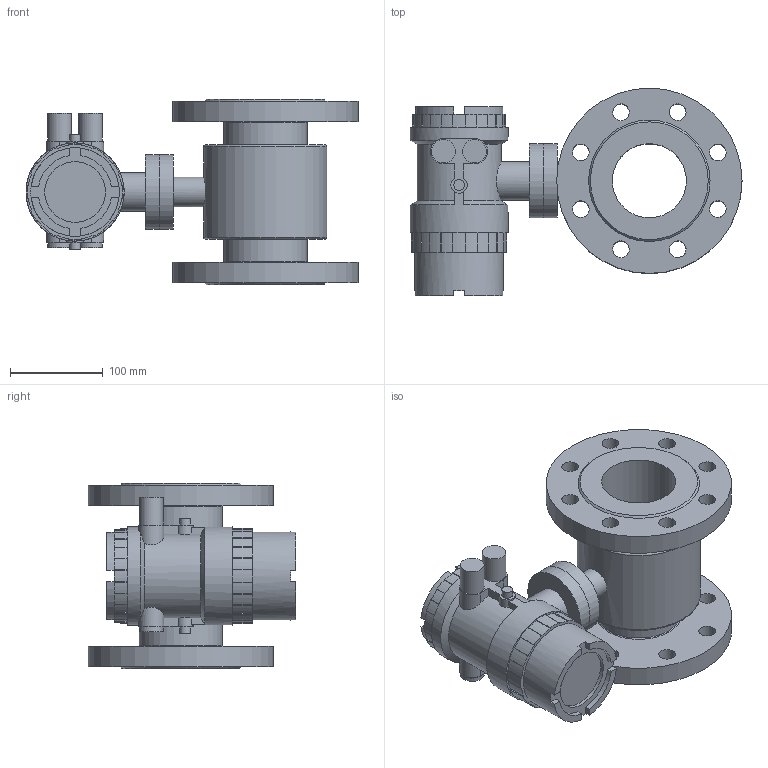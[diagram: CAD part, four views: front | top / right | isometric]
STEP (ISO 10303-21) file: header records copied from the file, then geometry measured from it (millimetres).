
FILE_DESCRIPTION( (''), '2;1');
FILE_NAME( 'QMKC_DN80.step', '2025-11-18T13:45:46+08:00', (''), (''), '', '', '');
FILE_SCHEMA (('AUTOMOTIVE_DESIGN { 1 0 10303 214 3 1 1 1 }'));
Length unit declared in the file: millimetre
Products named in the file (1): QMKC DN80
Bounding box: 358.25 x 224 x 200 mm (x, y, z)
Volume: 3818865.7 mm3; surface area: 392746.2 mm2
Topology: 2 solids, 2 shells, 226 faces, 618 edges, 419 vertices
Faces by surface type: plane 112, cylinder 104, cone 8, torus 2
Full cylindrical faces by diameter (mm): 11.6 x2, 18 x16, 25.5 x4, 32 x1, 42 x1, 65.5 x1, 80 x3, 90 x2, 95.5 x1, 105.9 x2, 133 x1, 200 x2
Entity records: 6989 total; most frequent: CARTESIAN_POINT 1325, DIRECTION 1198, ORIENTED_EDGE 1090, EDGE_CURVE 545, AXIS2_PLACEMENT_3D 450, VERTEX_POINT 389, EDGE_LOOP 326, LINE 298
